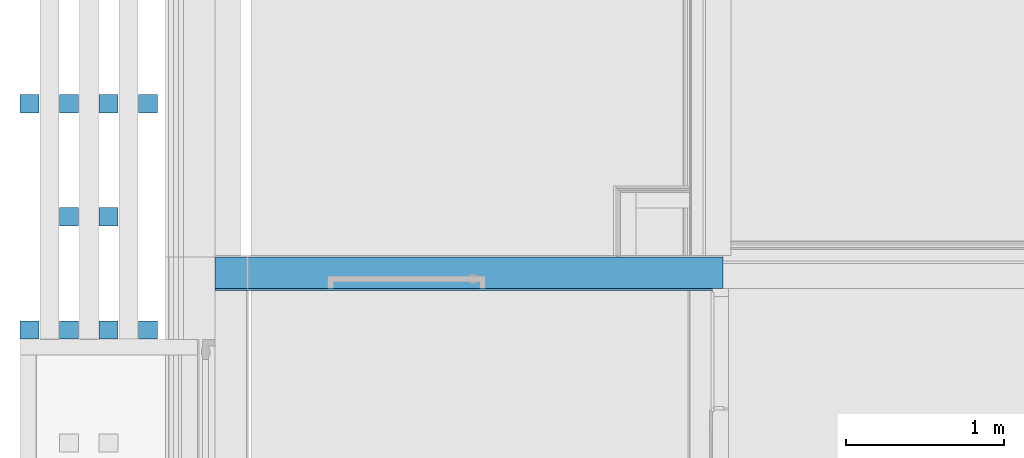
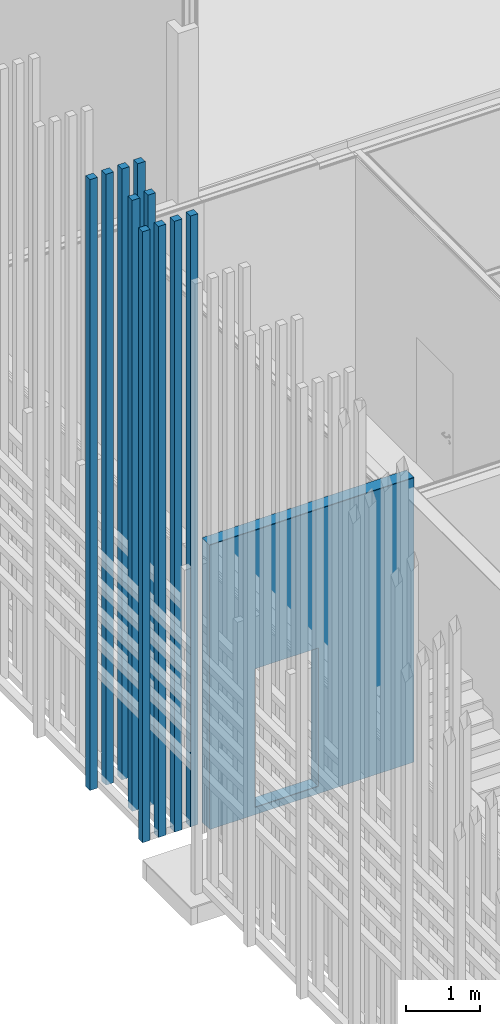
# One storey, part 156 of 260: 3 discrete accessories, 2 building element parts, 1 opening, 1 element without a shape of its own.
"""IFC2X3 building model written with IfcOpenShell, lengths in millimetres."""

from ifc_helpers import new_model, entity, si_unit, converted_unit, derived_unit, money_unit, direction, frame, origin_with_axes, place, context, subcontext, project, spatial, faceted_brep, material, material_list, type_object, element, aggregate, save


model = new_model("IFC2X3")

# Units and contexts
model_context = context("Model", 3, precision=0.01, world=origin_with_axes(), true_north=direction((0.0, 1.0)))
body_context = subcontext(model_context, "Body", "Model", "MODEL_VIEW")
ifc_project = project(units=[si_unit("LENGTHUNIT", "METRE", prefix="MILLI"), si_unit("AREAUNIT", "SQUARE_METRE"), si_unit("VOLUMEUNIT", "CUBIC_METRE"), converted_unit("PLANEANGLEUNIT", "DEGREE", entity("IfcPlaneAngleMeasure", 0.0174532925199), si_unit("PLANEANGLEUNIT", "RADIAN"), dimensions=[0, 0, 0, 0, 0, 0, 0]), money_unit("EUR"), converted_unit("TIMEUNIT", "Year", entity("IfcTimeMeasure", 31556926.0), si_unit("TIMEUNIT", "SECOND"), dimensions=[0, 0, 1, 0, 0, 0, 0]), si_unit("MASSUNIT", "GRAM", prefix="KILO"), si_unit("THERMODYNAMICTEMPERATUREUNIT", "DEGREE_CELSIUS"), si_unit("LUMINOUSINTENSITYUNIT", "LUMEN"), si_unit("ENERGYUNIT", "JOULE", prefix="MEGA"), derived_unit("THERMALCONDUCTANCEUNIT", [(si_unit("POWERUNIT", "WATT"), 1), (si_unit("LENGTHUNIT", "METRE"), -1), (si_unit("THERMODYNAMICTEMPERATUREUNIT", "KELVIN"), -1)]), derived_unit("SPECIFICHEATCAPACITYUNIT", [(si_unit("ENERGYUNIT", "JOULE"), 1), (si_unit("MASSUNIT", "GRAM", prefix="KILO"), -1), (si_unit("THERMODYNAMICTEMPERATUREUNIT", "KELVIN"), -1)]), derived_unit("MASSDENSITYUNIT", [(si_unit("MASSUNIT", "GRAM", prefix="KILO"), 1), (si_unit("VOLUMEUNIT", "CUBIC_METRE"), -1)])], contexts=[model_context])

# Site, building, storey
site_placement = place(None, origin_with_axes())
site = spatial("IfcSite", under=ifc_project, at=site_placement, Name="Kolde pst 67a", CompositionType="ELEMENT")
building_placement = place(site_placement, origin_with_axes())
building = spatial("IfcBuilding", under=site, at=building_placement, Name="Riigigümnaasium", CompositionType="ELEMENT")
storey_placement = place(building_placement, origin_with_axes())
storey = spatial("IfcBuildingStorey", under=building, at=storey_placement, Name="1. korrus", CompositionType="ELEMENT", Elevation=0.0)

# Discrete accessories
ifc_material_1 = material(Name="_VÄLISVIIMISTLUS - sõrmjätkatud puitprussid 120x115mm, liitekohad vähemärgatavad, Platowood sõrmjätkatud kuusk või samaväärne; eeltöödeldud tuletõkkevõõbaga, tuletundlikkus B-s1, d0, Woodsafe Exterior WFX™ või samaväärne; kinnitused vastavalt EK osale")
ifc_material_list_1 = material_list([ifc_material_1, ifc_material_1, ifc_material_1, ifc_material_1])
discrete_accessory_type_1 = type_object("IfcDiscreteAccessoryType", Name="120 4-ne vertikaalne 870 x 115")
for number, where, z_axis, x_axis in (
    (1, (-310.003213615, 60532.2222772, 280.0), (0.0, 0.0, 1.0), (0.999999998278, -5.86859191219e-05, 0.0)),
    (2, (-310.003213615, 59102.2222773, 280.0), (0.0, 0.0, 1.0), (0.999999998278, -5.86859191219e-05, 0.0)),
):
    element("IfcDiscreteAccessory", number, at=place(storey_placement, frame(where, z_axis=z_axis, x_axis=x_axis)), inside=storey, type_object=discrete_accessory_type_1, material=ifc_material_list_1, Name="Päikesevarjestus", context=body_context, shape_type="Brep", body=[
        faceted_brep([(-133.0, -70.0, 0.0), (-13.0, -70.0, 0.0), (-13.0, -70.0, 10140.0), (-133.0, -70.0, 10140.0), (-133.0, 45.0, 0.0), (-13.0, 45.0, 0.0), (-13.0, 45.0, 10140.0), (-133.0, 45.0, 10140.0)], [[[0, 1, 2, 3]], [[0, 4, 5, 1]], [[1, 5, 6, 2]], [[3, 2, 6, 7]], [[4, 0, 3, 7]], [[5, 4, 7, 6]]]),
        faceted_brep([(-383.0, -70.0, 0.0), (-263.0, -70.0, 0.0), (-263.0, -70.0, 10140.0), (-383.0, -70.0, 10140.0), (-383.0, 45.0, 0.0), (-263.0, 45.0, 0.0), (-263.0, 45.0, 10140.0), (-383.0, 45.0, 10140.0)], [[[0, 1, 2, 3]], [[0, 4, 5, 1]], [[1, 5, 6, 2]], [[3, 2, 6, 7]], [[4, 0, 3, 7]], [[5, 4, 7, 6]]]),
        faceted_brep([(-633.0, -70.0, 0.0), (-513.0, -70.0, 0.0), (-513.0, -70.0, 10140.0), (-633.0, -70.0, 10140.0), (-633.0, 45.0, 0.0), (-513.0, 45.0, 0.0), (-513.0, 45.0, 10140.0), (-633.0, 45.0, 10140.0)], [[[0, 1, 2, 3]], [[0, 4, 5, 1]], [[1, 5, 6, 2]], [[3, 2, 6, 7]], [[4, 0, 3, 7]], [[5, 4, 7, 6]]]),
        faceted_brep([(-883.0, -70.0, 0.0), (-763.0, -70.0, 0.0), (-763.0, -70.0, 10140.0), (-883.0, -70.0, 10140.0), (-883.0, 45.0, 0.0), (-763.0, 45.0, 0.0), (-763.0, 45.0, 10140.0), (-883.0, 45.0, 10140.0)], [[[0, 1, 2, 3]], [[0, 4, 5, 1]], [[1, 5, 6, 2]], [[3, 2, 6, 7]], [[4, 0, 3, 7]], [[5, 4, 7, 6]]]),
    ])
ifc_material_list_2 = material_list([ifc_material_1, ifc_material_1])
discrete_accessory_type_2 = type_object("IfcDiscreteAccessoryType", Name="1+paiksekaitse 3 370 x 115")
discrete_accessory_placement = place(storey_placement, frame((-1290.00746728, 59744.7586626, 280.0), z_axis=(0.0, 0.0, 1.0), x_axis=(1.0, 0.0, 0.0)))
element("IfcDiscreteAccessory", 3, at=discrete_accessory_placement, inside=storey, type_object=discrete_accessory_type_2, material=ifc_material_list_2, Name="Päikesevarjestus", context=body_context, shape_type="Brep", body=[
    faceted_brep([(467.0, 117.5, 0.0), (347.0, 117.5, 0.0), (347.0, 117.5, 10140.0), (467.0, 117.5, 10140.0), (467.0, 2.5, 0.0), (347.0, 2.5, 0.0), (347.0, 2.5, 10140.0), (467.0, 2.5, 10140.0)], [[[0, 1, 2, 3]], [[0, 4, 5, 1]], [[1, 5, 6, 2]], [[3, 2, 6, 7]], [[4, 0, 3, 7]], [[5, 4, 7, 6]]]),
    faceted_brep([(717.0, 117.5, 0.0), (597.0, 117.5, 0.0), (597.0, 117.5, 10140.0), (717.0, 117.5, 10140.0), (717.0, 2.5, 0.0), (597.0, 2.5, 0.0), (597.0, 2.5, 10140.0), (717.0, 2.5, 10140.0)], [[[0, 1, 2, 3]], [[0, 4, 5, 1]], [[1, 5, 6, 2]], [[3, 2, 6, 7]], [[4, 0, 3, 7]], [[5, 4, 7, 6]]]),
])

# Wall, opening, building element parts
wall_type = type_object("IfcWallType", Name="SS-RB-20/1_+2 krohv 55 dB 220", PredefinedType="NOTDEFINED")
wall_placement = place(storey_placement, frame((3249.94042366, 59349.9979478, -120.0), z_axis=(0.0, 0.0, 1.0), x_axis=(-1.0, 0.0, 0.0)))
wall = element("IfcWall", 4, at=wall_placement, inside=storey, type_object=wall_type, Name="Sisesein")
opening_placement = place(wall_placement, frame((1999.88406538, 0.0, 120.0), z_axis=(0.0, 0.0, 1.0), x_axis=(1.0, 0.0, 0.0)))
element("IfcOpeningElement", 5, at=opening_placement, cuts=wall, Name="Siseuks", context=body_context, shape_type="Brep", body=[
    faceted_brep([(500.0, 440.0, 0.0), (500.0, 440.0, 2300.0), (500.0, -220.0, 2300.0), (500.0, -220.0, 0.0), (-500.0, 440.0, 0.0), (-500.0, 440.0, 2300.0), (-500.0, -220.0, 2300.0), (-500.0, -220.0, 0.0)], [[[0, 1, 2, 3]], [[0, 4, 5, 1]], [[1, 5, 6, 2]], [[3, 2, 6, 7]], [[4, 0, 3, 7]], [[5, 4, 7, 6]]]),
])
ifc_material_2 = material(Name="_VIIMISTLUSKIHT - viimistlus vastavalt SA osale")
building_element_part_1_placement = place(wall_placement, origin_with_axes())
building_element_part_1 = element("IfcBuildingElementPart", 6, at=building_element_part_1_placement, material=ifc_material_2, Name="_VIIMISTLUSKIHT - viimistlus vastavalt SA osale", context=body_context, shape_type="Brep", body=[
    faceted_brep([(3209.98406538, 10.0, 0.0), (0.0, 10.0, 0.0), (0.0, 10.0, 4720.0), (3209.98406538, 10.0, 4720.0), (2499.88406538, 10.0, 120.0), (2499.88406538, 10.0, 2420.0), (1499.88406538, 10.0, 2420.0), (1499.88406538, 10.0, 120.0), (3209.98406538, 0.0, 0.0), (0.0, 0.0, 0.0), (0.0, 0.0, 4720.0), (3209.98406538, 0.0, 4720.0), (2499.88406538, 0.0, 120.0), (2499.88406538, 0.0, 2420.0), (1499.88406538, 0.0, 2420.0), (1499.88406538, 0.0, 120.0)], [[[0, 1, 2, 3], [4, 5, 6, 7]], [[8, 9, 1, 0]], [[2, 1, 9, 10]], [[3, 2, 10, 11]], [[8, 0, 3, 11]], [[12, 13, 5, 4]], [[13, 14, 6, 5]], [[14, 15, 7, 6]], [[15, 12, 4, 7]], [[11, 10, 9, 8], [12, 15, 14, 13]]]),
])
ifc_material_3 = material(Name="_KANDETARIND - monteeritav raudbetoon vastavalt EK osale")
building_element_part_2_placement = place(wall_placement, origin_with_axes())
building_element_part_2 = element("IfcBuildingElementPart", 7, at=building_element_part_2_placement, material=ifc_material_3, Name="_KANDETARIND - monteeritav raudbetoon vastavalt EK osale", context=body_context, shape_type="Brep", body=[
    faceted_brep([(3209.98406538, 0.0, 4720.0), (3209.98406538, 0.0, 0.0), (0.0, 0.0, 0.0), (0.0, 0.0, 4720.0), (1499.88406538, 0.0, 120.0), (2499.88406538, 0.0, 120.0), (2499.88406538, 0.0, 2420.0), (1499.88406538, 0.0, 2420.0), (3209.98406538, -200.0, 4720.0), (3209.98406538, -200.0, 0.0), (0.0, -200.0, 0.0), (0.0, -200.0, 4720.0), (1499.88406538, -200.0, 120.0), (2499.88406538, -200.0, 120.0), (2499.88406538, -200.0, 2420.0), (1499.88406538, -200.0, 2420.0)], [[[0, 1, 2, 3], [4, 5, 6, 7]], [[8, 9, 1, 0]], [[1, 9, 10, 2]], [[11, 3, 2, 10]], [[8, 0, 3, 11]], [[4, 12, 13, 5]], [[5, 13, 14, 6]], [[6, 14, 15, 7]], [[7, 15, 12, 4]], [[9, 8, 11, 10], [14, 13, 12, 15]]]),
])
aggregate(wall, [building_element_part_1, building_element_part_2])

save(model, "model.ifc")
